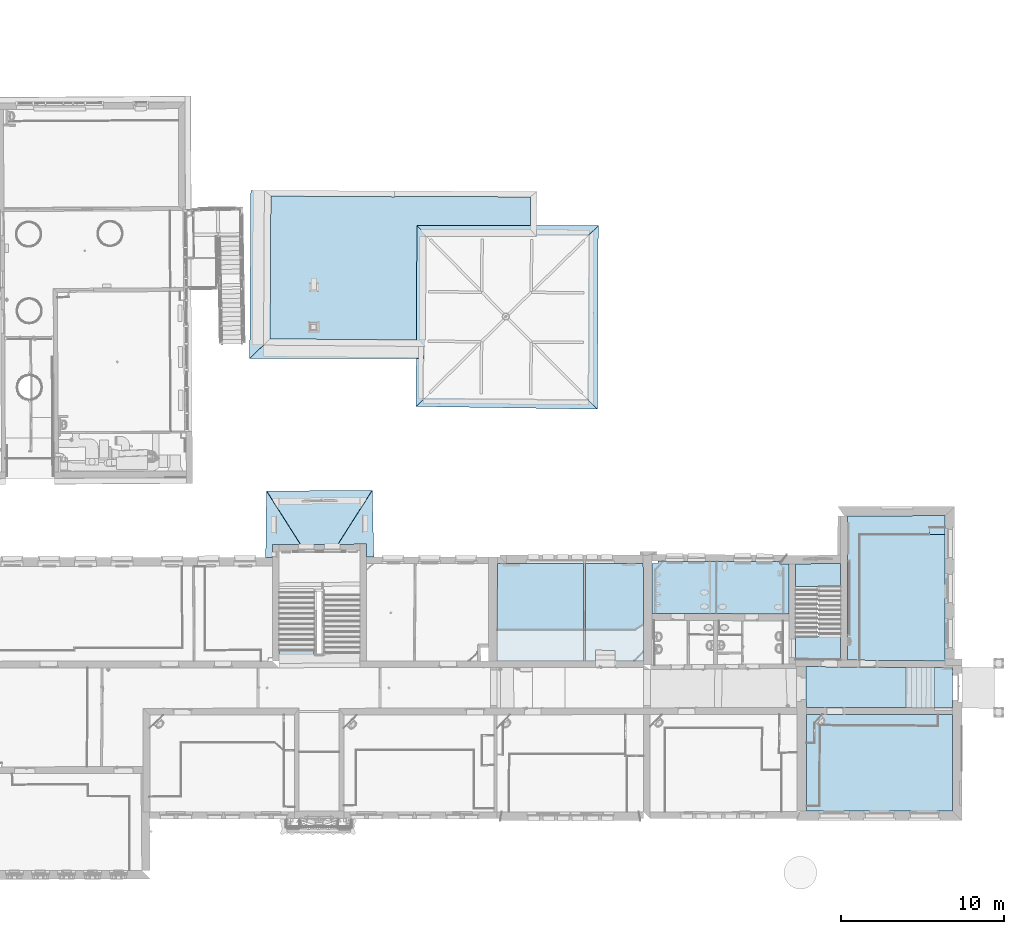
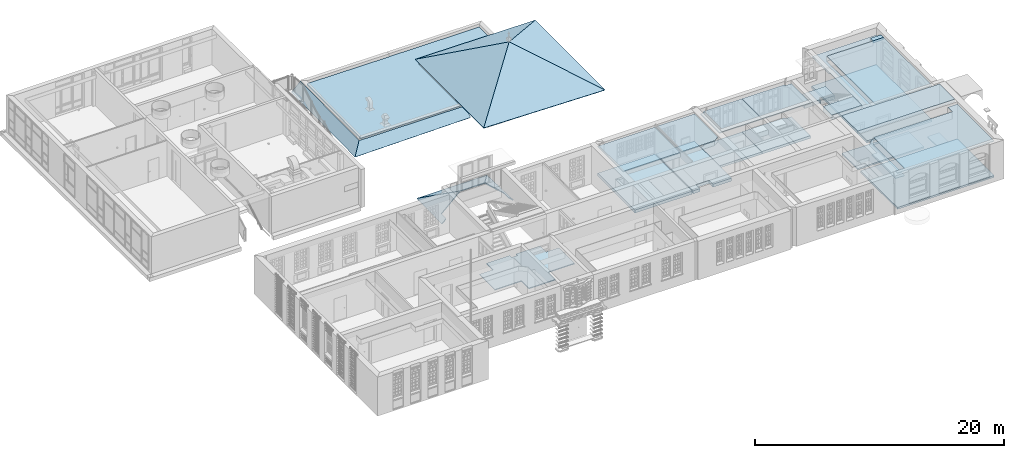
# One storey, part 13 of 158: 31 slabs.
"""IFC2X3 building model written with IfcOpenShell, lengths in metres."""

from ifc_helpers import new_model, entity, si_unit, converted_unit, derived_unit, money_unit, direction, frame, origin_with_axes, place, context, subcontext, project, spatial, polyline, outline, extrude, boolean, faceted_brep, material, layer, layer_set, layer_usage, type_object, element, save


model = new_model("IFC2X3")

# Units and contexts
model_context = context("Model", 3, precision=1e-05, world=origin_with_axes(), true_north=direction((0.0, 1.0)))
body_context = subcontext(model_context, "Body", "Model", "MODEL_VIEW")
ifc_project = project(units=[si_unit("LENGTHUNIT", "METRE"), si_unit("AREAUNIT", "SQUARE_METRE"), si_unit("VOLUMEUNIT", "CUBIC_METRE"), converted_unit("PLANEANGLEUNIT", "DEGREE", entity("IfcPlaneAngleMeasure", 0.0174532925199), si_unit("PLANEANGLEUNIT", "RADIAN"), dimensions=[0, 0, 0, 0, 0, 0, 0]), money_unit("EUR"), converted_unit("TIMEUNIT", "Year", entity("IfcTimeMeasure", 31556926.0), si_unit("TIMEUNIT", "SECOND"), dimensions=[0, 0, 1, 0, 0, 0, 0]), si_unit("MASSUNIT", "GRAM", prefix="KILO"), si_unit("THERMODYNAMICTEMPERATUREUNIT", "DEGREE_CELSIUS"), si_unit("LUMINOUSINTENSITYUNIT", "LUMEN"), si_unit("ENERGYUNIT", "JOULE", prefix="MEGA"), derived_unit("THERMALCONDUCTANCEUNIT", [(si_unit("POWERUNIT", "WATT"), 1), (si_unit("LENGTHUNIT", "METRE"), -1), (si_unit("THERMODYNAMICTEMPERATUREUNIT", "KELVIN"), -1)]), derived_unit("SPECIFICHEATCAPACITYUNIT", [(si_unit("ENERGYUNIT", "JOULE"), 1), (si_unit("MASSUNIT", "GRAM", prefix="KILO"), -1), (si_unit("THERMODYNAMICTEMPERATUREUNIT", "KELVIN"), -1)]), derived_unit("MASSDENSITYUNIT", [(si_unit("MASSUNIT", "GRAM", prefix="KILO"), 1), (si_unit("VOLUMEUNIT", "CUBIC_METRE"), -1)])], contexts=[model_context])

# Site, building, storey
site_placement = place(None, origin_with_axes())
site = spatial("IfcSite", under=ifc_project, at=site_placement, Name="Gelände", CompositionType="ELEMENT")
building_placement = place(site_placement, origin_with_axes())
building = spatial("IfcBuilding", under=site, at=building_placement, Name="Gebäude", CompositionType="ELEMENT")
storey_placement = place(building_placement, origin_with_axes())
storey = spatial("IfcBuildingStorey", under=building, at=storey_placement, Name="ERDGESCHOSS", CompositionType="ELEMENT", Elevation=0.0)

# Slabs
ifc_material_1 = material(Name="29_Dach, Dachziegel rot")
slab_type_1 = type_object("IfcSlabType", Name="29_Dach, Dachziegel rot 80", PredefinedType="ROOF")
slab_1_placement = place(storey_placement, frame((-8.24355247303, 27.2967141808, 2.69399957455), z_axis=(0.0, 0.0, 1.0), x_axis=(0.00970070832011, 0.999952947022, 0.0)))
element("IfcSlab", 1, at=slab_1_placement, inside=storey, type_object=slab_type_1, material=ifc_material_1, Name="Dach-001", PredefinedType="ROOF", context=body_context, shape_type="Brep", body=[
    faceted_brep([(2.81051772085, 2.40048217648, -2.1352390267), (-1.26759718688, 2.4098255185, -2.14397628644), (-1.26300971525, 1.99640930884, -1.75737748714), (-0.487870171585, 2.00400203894, -1.76447769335), (-0.461976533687, 0.280474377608, -0.152751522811), (2.75320523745, 2.34597187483, -2.1937937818), (-1.2669908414, 2.35518251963, -2.20240695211), (-1.26300971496, 1.99640930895, -1.86690657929), (-0.487870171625, 2.00400203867, -1.87400678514), (-0.461717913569, 0.263260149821, -0.246183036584)], [[[0, 1, 2, 3, 4]], [[1, 0, 5, 6]], [[2, 1, 6, 7]], [[3, 2, 7, 8]], [[4, 3, 8, 9]], [[0, 4, 9, 5]], [[6, 5, 9, 8, 7]]]),
])
slab_2_placement = place(storey_placement, frame((-6.58477294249, 29.2767822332, 2.70662234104), z_axis=(0.0, 0.0, 1.0), x_axis=(0.0296289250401, -0.999560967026, 0.0)))
element("IfcSlab", 2, at=slab_2_placement, inside=storey, type_object=slab_type_1, material=ifc_material_1, Name="Dach-002", PredefinedType="ROOF", context=body_context, shape_type="Brep", body=[
    faceted_brep([(3.28961745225, 2.4712463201, -2.13129942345), (-0.81026614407, 2.49513987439, -2.152949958), (2.43683209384, 0.295698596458, -0.159982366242), (2.47949560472, 2.05021337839, -1.74979116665), (3.27704743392, 2.02622043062, -1.72805056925), (3.28810042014, 2.41753769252, -2.19059009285), (-0.754712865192, 2.44109864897, -2.21193925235), (2.43643948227, 0.279552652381, -0.253309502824), (2.47949560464, 2.05021337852, -1.85774853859), (3.27704743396, 2.02622043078, -1.83600794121)], [[[0, 1, 2, 3, 4]], [[1, 0, 5, 6]], [[2, 1, 6, 7]], [[3, 2, 7, 8]], [[4, 3, 8, 9]], [[0, 4, 9, 5]], [[6, 5, 9, 8, 7]]]),
])
slab_3_placement = place(storey_placement, frame((-4.87090665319, 26.4290862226, 2.70662234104), z_axis=(0.0, 0.0, 1.0), x_axis=(-0.999999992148, -0.000125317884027, 0.0)))
element("IfcSlab", 3, at=slab_3_placement, inside=storey, type_object=slab_type_1, material=ifc_material_1, Name="Dach-002", PredefinedType="ROOF", context=body_context, shape_type="Brep", body=[
    faceted_brep([(-0.756638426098, -3.73143994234, -2.15294995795), (5.74528714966, -3.70201982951, -2.13523904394), (3.6575372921, -0.40885232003, -0.152751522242), (1.34604406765, -0.420863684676, -0.159982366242), (-0.714213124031, -3.68998755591, -2.2213732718), (5.70198110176, -3.66095536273, -2.2038958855), (3.640321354, -0.408941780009, -0.246183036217), (1.36219456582, -0.420779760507, -0.253309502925)], [[[0, 1, 2, 3]], [[1, 0, 4, 5]], [[2, 1, 5, 6]], [[3, 2, 6, 7]], [[0, 3, 7, 4]], [[5, 4, 7, 6]]]),
])
slab_4_placement = place(storey_placement, frame((-11.5312044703, 41.4546536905, 0.0291833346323), z_axis=(0.0, 0.0, 1.0), x_axis=(-0.00061308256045, -0.999999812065, 0.0)))
element("IfcSlab", 4, at=slab_4_placement, inside=storey, type_object=slab_type_1, material=ifc_material_1, Name="Dach-003", PredefinedType="ROOF", context=body_context, shape_type="Brep", body=[
    faceted_brep([(3.19237896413, -0.116746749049, -0.00149994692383), (2.35986902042, 0.735980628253, 0.821579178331), (-7.14996558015, 0.783354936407, 0.867306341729), (-7.14945299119, -0.0527296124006, 0.0602913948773), (3.13716853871, -0.0608459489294, -0.0587304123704), (2.35923093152, 0.735983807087, 0.71039458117), (-7.14993151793, 0.783354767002, 0.756118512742), (-7.14945299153, 0.00282942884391, 0.00273105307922)], [[[0, 1, 2, 3]], [[1, 0, 4, 5]], [[2, 1, 5, 6]], [[3, 2, 6, 7]], [[0, 3, 7, 4]], [[5, 4, 7, 6]]]),
])
slab_5_placement = place(storey_placement, frame((-11.1899151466, 38.3717914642, 0.0285634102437), z_axis=(0.0, 0.0, 1.0), x_axis=(0.999915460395, -0.0130027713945, 0.0)))
element("IfcSlab", 5, at=slab_5_placement, inside=storey, type_object=slab_type_1, material=ifc_material_1, Name="Dach-004", PredefinedType="ROOF", context=body_context, shape_type="Brep", body=[
    faceted_brep([(10.2478805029, 0.0227545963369, 0.134024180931), (10.2174267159, 0.769298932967, 0.862917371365), (0.378689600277, 0.722464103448, 0.817189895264), (-0.459598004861, -0.116484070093, -0.00192235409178), (10.2478805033, 0.078642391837, 0.0767829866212), (10.2197061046, 0.769309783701, 0.751120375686), (0.378044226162, 0.722461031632, 0.705379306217), (-0.403669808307, -0.0598689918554, -0.0584534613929)], [[[0, 1, 2, 3]], [[1, 0, 4, 5]], [[2, 1, 5, 6]], [[3, 2, 6, 7]], [[0, 3, 7, 4]], [[5, 4, 7, 6]]]),
])
slab_6_placement = place(storey_placement, frame((-1.31989253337, 36.2583011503, 1.03819345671), z_axis=(0.0, 0.0, 1.0), x_axis=(0.00849003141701, 0.999963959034, 0.0)))
element("IfcSlab", 6, at=slab_6_placement, inside=storey, type_object=slab_type_1, material=ifc_material_1, Name="Dach-004", PredefinedType="ROOF", context=body_context, shape_type="Brep", body=[
    faceted_brep([(-0.935858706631, 0.0948839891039, 0.0375724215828), (4.61804661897, -5.39443084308, 3.20906310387), (10.1799424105, 0.135584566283, 0.0140573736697), (-0.895813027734, 0.0550094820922, -0.0317821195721), (4.61803061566, -5.39470957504, 3.11683182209), (10.1398070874, 0.0954164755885, -0.0551275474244)], [[[0, 1, 2]], [[1, 0, 3, 4]], [[2, 1, 4, 5]], [[0, 2, 5, 3]], [[4, 3, 5]]]),
])
slab_7_placement = place(storey_placement, frame((8.25994698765, 46.2290372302, 1.03834517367), z_axis=(0.0, 0.0, 1.0), x_axis=(-0.999970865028, 0.00763341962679, 0.0)))
element("IfcSlab", 7, at=slab_7_placement, inside=storey, type_object=slab_type_1, material=ifc_material_1, Name="Dach-005", PredefinedType="ROOF", context=body_context, shape_type="Brep", body=[
    faceted_brep([(-1.51611044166, -0.21042194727, -0.0285325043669), (9.63031357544, -0.136482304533, 0.0139056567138), (4.09949414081, 5.43576099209, 3.21213261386), (-1.47611552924, -0.170333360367, -0.0977639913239), (9.59078401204, -0.0969212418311, -0.055628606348), (4.09942436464, 5.43556672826, 3.11978051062)], [[[0, 1, 2]], [[1, 0, 3, 4]], [[2, 1, 4, 5]], [[0, 2, 5, 3]], [[4, 3, 5]]]),
])
slab_8_placement = place(storey_placement, frame((9.56123597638, 45.1832943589, 1.03827410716), z_axis=(0.0, 0.0, 1.0), x_axis=(-0.00531098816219, -0.999985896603, 0.0)))
element("IfcSlab", 8, at=slab_8_placement, inside=storey, type_object=slab_type_1, material=ifc_material_1, Name="Dach-005", PredefinedType="ROOF", context=body_context, shape_type="Brep", body=[
    faceted_brep([(10.0267022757, 0.215618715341, -0.0318284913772), (-1.24544451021, 0.209497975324, -0.0283045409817), (4.38178988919, -5.41331803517, 3.20897145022), (9.98680843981, 0.175680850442, -0.10114636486), (-1.20564239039, 0.169603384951, -0.0976473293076), (4.38180652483, -5.41345837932, 3.11674058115)], [[[0, 1, 2]], [[1, 0, 3, 4]], [[2, 1, 4, 5]], [[0, 2, 5, 3]], [[4, 3, 5]]]),
])
slab_9_placement = place(storey_placement, frame((9.18721635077, 35.3743131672, 1.03836435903), z_axis=(0.0, 0.0, 1.0), x_axis=(-0.999991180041, 0.00419998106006, 0.0)))
element("IfcSlab", 9, at=slab_9_placement, inside=storey, type_object=slab_type_1, material=ifc_material_1, Name="Dach-005", PredefinedType="ROOF", context=body_context, shape_type="Brep", body=[
    faceted_brep([(-0.537268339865, 0.21644077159, -0.0319019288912), (5.09095408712, -5.44031093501, 3.21210313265), (10.6096270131, 0.0955925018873, 0.0374015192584), (-0.497080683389, 0.176206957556, -0.101050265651), (5.09088478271, -5.44008372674, 3.11975141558), (10.5700843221, 0.0562230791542, -0.0322425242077)], [[[0, 1, 2]], [[1, 0, 3, 4]], [[2, 1, 4, 5]], [[0, 2, 5, 3]], [[4, 3, 5]]]),
])
ifc_material_2 = material(Name="01_ALLGEMEIN - BAUTEIL")
ifc_layer_1 = layer(ifc_material_2, 0.05, ventilated="UNKNOWN")
ifc_layer_set_1 = layer_set([ifc_layer_1], Name="01_ALLGEMEIN - BAUTEIL 0.05")
ifc_layer_usage_1 = layer_usage(ifc_layer_set_1, "AXIS3", "NEGATIVE", 0.05)
slab_type_2 = type_object("IfcSlabType", Name="01_ALLGEMEIN - BAUTEIL 50", PredefinedType="NOTDEFINED")
slab_10_placement = place(storey_placement, frame((25.8306078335, 27.4395429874, 3.31), z_axis=(0.0, 0.0, 1.0), x_axis=(1.0, 0.0, 0.0)))
element("IfcSlab", 10, at=slab_10_placement, inside=storey, type_object=slab_type_2, material=ifc_layer_usage_1, Name="Belag-004", PredefinedType="NOTDEFINED", context=body_context, shape_type="SweptSolid", body=[
    extrude(outline(polyline([(0.0, 0.0), (0.0202048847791, -7.71009367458), (5.26653042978, -7.75423181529), (5.26391741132, 0.000631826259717), (0.0, 0.0)])), origin_with_axes(), (0.0, 0.0, 1.0), 0.05),
])
ifc_layer_usage_2 = layer_usage(ifc_layer_set_1, "AXIS3", "NEGATIVE", 0.05)
slab_11_placement = place(storey_placement, frame((25.0820873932, 21.2690285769, 2.83), z_axis=(0.0, 0.0, 1.0), x_axis=(1.0, 0.0, 0.0)))
element("IfcSlab", 11, at=slab_11_placement, inside=storey, type_object=slab_type_2, material=ifc_layer_usage_2, Name="Belag-004", PredefinedType="NOTDEFINED", context=body_context, shape_type="SweptSolid", body=[
    extrude(outline(polyline([(0.0, 0.0), (-0.000226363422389, -1.53310998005), (0.768725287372, -1.53957926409), (0.748520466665, 6.17051435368), (5.04291294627, 6.1710299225), (5.05296104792, 6.60018123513), (6.01229439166, 6.59693567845), (6.01204434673, 7.33884133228), (0.00108260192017, 7.33439648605), (0.000674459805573, 4.56953609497), (0.131250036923, 4.56953609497), (0.154868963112, -2.27554112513e-05), (0.0, 0.0)])), origin_with_axes(), (0.0, 0.0, 1.0), 0.05),
])
ifc_layer_usage_3 = layer_usage(ifc_layer_set_1, "AXIS3", "NEGATIVE", 0.05)
slab_12_placement = place(storey_placement, frame((23.4031106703, 15.7215350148, 3.31), z_axis=(0.0, 0.0, 1.0), x_axis=(1.0, 0.0, 0.0)))
element("IfcSlab", 12, at=slab_12_placement, inside=storey, type_object=slab_type_2, material=ifc_layer_usage_3, Name="Belag-004", PredefinedType="NOTDEFINED", context=body_context, shape_type="SweptSolid", body=[
    extrude(outline(polyline([(0.0, 0.0), (-0.00785637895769, -4.97175776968), (-0.827713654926, -4.95484402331), (-0.826745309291, -5.26244488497), (8.13051352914, -5.26003454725), (8.1350297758, 0.661870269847), (7.25563696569, 0.663445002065), (7.25563696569, -0.042902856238), (0.0, 0.0)])), origin_with_axes(), (0.0, 0.0, 1.0), 0.05),
])
ifc_layer_usage_4 = layer_usage(ifc_layer_set_1, "AXIS3", "NEGATIVE", 0.05)
slab_13_placement = place(storey_placement, frame((22.5632278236, 14.6323085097, 2.59), z_axis=(0.0, 0.0, 1.0), x_axis=(1.0, 0.0, 0.0)))
element("IfcSlab", 13, at=slab_13_placement, inside=storey, type_object=slab_type_2, material=ifc_layer_usage_4, Name="Belag-004", PredefinedType="NOTDEFINED", context=body_context, shape_type="SweptSolid", body=[
    extrude(outline(polyline([(0.0, 0.0), (0.0121691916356, -3.86561746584), (0.832026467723, -3.88253126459), (0.839882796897, 1.08922649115), (8.09551981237, 1.04632369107), (8.09551981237, 1.75267145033), (1.01114910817, 1.76535755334), (0.516779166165, 1.24591529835), (0.503125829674, -0.00927979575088), (0.0, 0.0)])), origin_with_axes(), (0.0, 0.0, 1.0), 0.05),
])
ifc_material_3 = material(Name="05_ALLGEMEIN - TRAGENDE BAUTEILE")
ifc_layer_2 = layer(ifc_material_3, 0.09, ventilated="UNKNOWN")
ifc_layer_set_2 = layer_set([ifc_layer_2], Name="05_ALLGEMEIN - TRAGENDE BAUTEILE 0.09")
ifc_layer_usage_5 = layer_usage(ifc_layer_set_2, "AXIS3", "NEGATIVE", 0.09)
slab_type_3 = type_object("IfcSlabType", Name="05_ALLGEMEIN - TRAGENDE BAUTEILE 90", PredefinedType="NOTDEFINED")
slab_14_placement = place(storey_placement, frame((-11.0684491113, 19.2604025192, -0.12), z_axis=(0.0, 0.0, 1.0), x_axis=(1.0, 0.0, 0.0)))
element("IfcSlab", 14, at=slab_14_placement, inside=storey, type_object=slab_type_3, material=ifc_layer_usage_5, Name="Belag-003", PredefinedType="NOTDEFINED", context=body_context, shape_type="CSG", body=[
    boolean("DIFFERENCE", boolean("DIFFERENCE", extrude(outline(polyline([(0.0, 0.0), (-0.0124795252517, -2.47916482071), (2.4524799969, -2.47552520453), (2.45356210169, -3.82392998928), (4.92056685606, -3.82282544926), (4.92032999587, -2.48592841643), (7.35321048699, -2.48199454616), (7.36991717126, 0.0160701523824), (6.19311073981, 0.0157275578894), (6.19354518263, 1.00105112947), (3.94174977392, 1.00502829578), (3.94165374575, 0.748892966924), (3.38612235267, 0.748840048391), (3.38585774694, 1.05956681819), (1.226868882, 1.05936358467), (1.2269685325, 0.000757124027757), (0.0, 0.0)])), frame((0.0, 0.0, -0.09), z_axis=(0.0, 0.0, 1.0), x_axis=(1.0, 0.0, 0.0)), (0.0, 0.0, 1.0), 0.09), faceted_brep([(3.94168810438, 0.840537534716, 0.0), (3.94171211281, 0.840537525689, 0.0), (3.94177395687, 1.00502825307, 0.0), (3.94174977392, 1.00502829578, 0.0), (3.94168810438, 0.840537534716, -0.09), (3.94171211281, 0.840537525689, -0.09), (3.94177395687, 1.00502825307, -0.09), (3.94174977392, 1.00502829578, -0.09)], [[[0, 1, 2, 3]], [[1, 0, 4, 5]], [[6, 2, 1, 5]], [[2, 6, 7, 3]], [[4, 0, 3, 7]], [[5, 4, 7, 6]]])), faceted_brep([(4.92054028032, -3.67282542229, -0.09), (4.92054028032, -3.67282542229, 0.0), (4.92056685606, -3.82282544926, 0.0), (4.92056685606, -3.82282544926, -0.09), (2.45344242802, -3.67480528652, 0.0), (2.45344242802, -3.67480528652, -0.09), (2.45356210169, -3.82392998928, 0.0), (2.45356210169, -3.82392998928, -0.09)], [[[0, 1, 2, 3]], [[4, 1, 0, 5]], [[1, 4, 6, 2]], [[6, 7, 3, 2]], [[5, 0, 3, 7]], [[4, 5, 7, 6]]])),
])
ifc_layer_3 = layer(ifc_material_3, 0.2, ventilated="UNKNOWN")
ifc_layer_set_3 = layer_set([ifc_layer_3], Name="05_ALLGEMEIN - TRAGENDE BAUTEILE 0.2")
ifc_layer_usage_6 = layer_usage(ifc_layer_set_3, "AXIS3", "NEGATIVE", 0.200000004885)
slab_type_4 = type_object("IfcSlabType", Name="05_ALLGEMEIN - TRAGENDE BAUTEILE 200", PredefinedType="NOTDEFINED")
slab_15_placement = place(storey_placement, frame((25.0818610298, 19.7359186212, -0.01), z_axis=(0.0, 0.0, 1.0), x_axis=(1.0, 0.0, 0.0)))
element("IfcSlab", 15, at=slab_15_placement, inside=storey, type_object=slab_type_4, material=ifc_layer_usage_6, Name="Belag-003", PredefinedType="NOTDEFINED", context=body_context, shape_type="SweptSolid", body=[
    extrude(outline(polyline([(0.0, 0.0), (6.01527723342, -0.05060744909), (6.01227075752, 8.87195128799), (0.00130896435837, 8.86750649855), (0.0, 0.0)])), frame((0.0, 0.0, -0.200000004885), z_axis=(0.0, 0.0, 1.0), x_axis=(1.0, 0.0, 0.0)), (0.0, 0.0, 1.0), 0.200000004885),
])
ifc_layer_4 = layer(ifc_material_3, 0.27, ventilated="UNKNOWN")
ifc_layer_set_4 = layer_set([ifc_layer_4], Name="05_ALLGEMEIN - TRAGENDE BAUTEILE 0.27")
ifc_layer_usage_7 = layer_usage(ifc_layer_set_4, "AXIS3", "NEGATIVE", 0.27)
slab_type_5 = type_object("IfcSlabType", Name="05_ALLGEMEIN - TRAGENDE BAUTEILE 270", PredefinedType="NOTDEFINED")
slab_16_placement = place(storey_placement, frame((22.5484164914, 19.3372180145, 3.33), z_axis=(0.0, 0.0, 1.0), x_axis=(1.0, 0.0, 0.0)))
element("IfcSlab", 16, at=slab_16_placement, inside=storey, type_object=slab_type_5, material=ifc_layer_usage_7, Name="Belag-004", PredefinedType="NOTDEFINED", context=body_context, shape_type="SweptSolid", body=[
    extrude(outline(polyline([(0.0, 0.0), (0.00792595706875, -2.51772831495), (8.99004426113, -2.53381263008), (8.99191893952, -0.0756503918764), (0.0, 0.0)])), origin_with_axes(), (0.0, 0.0, 1.0), 0.27),
])
ifc_layer_5 = layer(ifc_material_3, 0.18, ventilated="UNKNOWN")
ifc_layer_set_5 = layer_set([ifc_layer_5], Name="05_ALLGEMEIN - TRAGENDE BAUTEILE 0.18")
ifc_layer_usage_8 = layer_usage(ifc_layer_set_5, "AXIS3", "NEGATIVE", 0.18)
slab_type_6 = type_object("IfcSlabType", Name="05_ALLGEMEIN - TRAGENDE BAUTEILE 180", PredefinedType="NOTDEFINED")
slab_17_placement = place(storey_placement, frame((22.5576646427, 16.3994866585, -0.03), z_axis=(0.0, 0.0, 1.0), x_axis=(1.0, 0.0, 0.0)))
element("IfcSlab", 17, at=slab_17_placement, inside=storey, type_object=slab_type_6, material=ifc_layer_usage_8, Name="Belag-003", PredefinedType="NOTDEFINED", context=body_context, shape_type="SweptSolid", body=[
    extrude(outline(polyline([(0.0, 0.0), (0.018700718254, -5.94039652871), (8.97595955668, -5.93798619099), (8.98047580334, -0.0160813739), (0.0, 0.0)])), frame((0.0, 0.0, -0.18), z_axis=(0.0, 0.0, 1.0), x_axis=(1.0, 0.0, 0.0)), (0.0, 0.0, 1.0), 0.18),
])
ifc_layer_6 = layer(ifc_material_3, 0.5, ventilated="UNKNOWN")
ifc_layer_set_6 = layer_set([ifc_layer_6], Name="05_ALLGEMEIN - TRAGENDE BAUTEILE 0.5")
ifc_layer_usage_9 = layer_usage(ifc_layer_set_6, "AXIS3", "NEGATIVE", 0.5)
slab_type_7 = type_object("IfcSlabType", Name="05_ALLGEMEIN - TRAGENDE BAUTEILE 500", PredefinedType="NOTDEFINED")
slab_18_placement = place(storey_placement, frame((21.8942864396, 19.8107117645, 3.1), z_axis=(0.0, 0.0, 1.0), x_axis=(1.0, 0.0, 0.0)))
element("IfcSlab", 18, at=slab_18_placement, inside=storey, type_object=slab_type_7, material=ifc_layer_usage_9, Name="Belag-004", PredefinedType="NOTDEFINED", context=body_context, shape_type="CSG", body=[
    boolean("DIFFERENCE", extrude(outline(polyline([(0.0, 0.0), (2.77758192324, -0.0250856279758), (2.7777923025, 1.40011700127), (1.44800921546, 1.40176196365), (0.00183033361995, 1.40373658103), (0.0, 0.0)])), origin_with_axes(), (0.0, 0.0, 1.0), 0.5), faceted_brep([(0.0016407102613, 1.25830886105, 0.0), (2.7777713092, 1.25789906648, 0.0), (2.77758192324, -0.0250856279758, 0.0), (0.0, 0.0, 0.0), (2.7777468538, 1.09222734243, 0.0415865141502), (0.0014246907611, 1.09263716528, 0.0415865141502), (2.77759665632, 0.0747228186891, 0.0415865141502), (2.77758192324, -0.0250856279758, 0.0165328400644), (2.77772202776, 0.924044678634, 0.071438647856), (2.7776969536, 0.754181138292, 0.0894090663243), (2.77767175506, 0.583475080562, 0.0954090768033), (2.77764655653, 0.412769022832, 0.0894090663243), (2.77762148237, 0.24290548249, 0.071438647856), (0.0, 0.0, 0.0227268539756), (9.79657576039e-05, 0.0751328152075, 0.0415865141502), (0.000317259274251, 0.243315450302, 0.0714386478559), (0.000538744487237, 0.413178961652, 0.0894090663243), (0.000761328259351, 0.583884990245, 0.0954090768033), (0.000983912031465, 0.754591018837, 0.0894090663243), (0.00120539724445, 0.924454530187, 0.0714386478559)], [[[0, 1, 2, 3]], [[4, 1, 0, 5]], [[6, 7, 2, 1, 4, 8, 9, 10, 11, 12]], [[7, 13, 3, 2]], [[5, 0, 3, 13, 14, 15, 16, 17, 18, 19]], [[8, 4, 5, 19]], [[7, 6, 14, 13]], [[9, 8, 19, 18]], [[10, 9, 18, 17]], [[11, 10, 17, 16]], [[12, 11, 16, 15]], [[6, 12, 15, 14]]])),
])
ifc_layer_7 = layer(ifc_material_3, 0.15, ventilated="UNKNOWN")
ifc_layer_set_7 = layer_set([ifc_layer_7], Name="05_ALLGEMEIN - TRAGENDE BAUTEILE 0.15")
ifc_layer_usage_10 = layer_usage(ifc_layer_set_7, "AXIS3", "NEGATIVE", 0.15)
slab_type_8 = type_object("IfcSlabType", Name="05_ALLGEMEIN - TRAGENDE BAUTEILE 150", PredefinedType="ROOF")
slab_19_placement = place(storey_placement, frame((-10.3457854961, 48.1884604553, 0.566725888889), z_axis=(0.0, 0.0, 1.0), x_axis=(-0.00559462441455, -0.999984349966, 0.0)))
element("IfcSlab", 19, at=slab_19_placement, inside=storey, type_object=slab_type_8, material=ifc_layer_usage_10, Name="Dach-013", PredefinedType="ROOF", context=body_context, shape_type="SweptSolid", body=[
    extrude(outline(polyline([(-0.0633884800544, 0.0), (8.71267078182, 0.0), (8.73693278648, 9.16142567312), (1.94838252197, 9.16316962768), (1.90748572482, 15.9544022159), (-0.104419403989, 15.9515495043), (-0.0811650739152, 7.59389326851), (-0.0622997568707, 7.59389056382), (-0.0633884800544, 0.0)])), origin_with_axes(), (0.0, 0.0, 1.0), 0.15),
])
ifc_layer_8 = layer(ifc_material_3, 0.250000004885, ventilated="UNKNOWN")
ifc_layer_set_8 = layer_set([ifc_layer_8], Name="05_ALLGEMEIN - TRAGENDE BAUTEILE 0.25")
ifc_layer_usage_11 = layer_usage(ifc_layer_set_8, "AXIS3", "NEGATIVE", 0.250000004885)
slab_type_9 = type_object("IfcSlabType", Name="05_ALLGEMEIN - TRAGENDE BAUTEILE 250", PredefinedType="NOTDEFINED")
slab_20_placement = place(storey_placement, frame((17.002223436, 25.8019819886, 0.04), z_axis=(0.0, 0.0, 1.0), x_axis=(1.0, 0.0, 0.0)))
element("IfcSlab", 20, at=slab_20_placement, inside=storey, type_object=slab_type_9, material=ifc_layer_usage_11, Name="Belag-003", PredefinedType="NOTDEFINED", context=body_context, shape_type="SweptSolid", body=[
    extrude(outline(polyline([(0.0, 0.0), (-0.00275120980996, -3.21387995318), (4.48566075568, -3.23178125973), (4.48967564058, -0.152648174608), (3.95448427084, -0.155556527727), (3.95448427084, -0.0155359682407), (0.0, 0.0)])), frame((0.0, 0.0, -0.250000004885), z_axis=(0.0, 0.0, 1.0), x_axis=(1.0, 0.0, 0.0)), (0.0, 0.0, 1.0), 0.250000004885),
])
ifc_layer_9 = layer(ifc_material_3, 0.14, ventilated="UNKNOWN")
ifc_layer_set_9 = layer_set([ifc_layer_9], Name="05_ALLGEMEIN - TRAGENDE BAUTEILE 0.14")
ifc_layer_usage_12 = layer_usage(ifc_layer_set_9, "AXIS3", "NEGATIVE", 0.140000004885)
slab_type_10 = type_object("IfcSlabType", Name="05_ALLGEMEIN - TRAGENDE BAUTEILE 140", PredefinedType="NOTDEFINED")
slab_21_placement = place(storey_placement, frame((28.6942466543, 19.2855122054, -0.07), z_axis=(0.0, 0.0, 1.0), x_axis=(1.0, 0.0, 0.0)))
element("IfcSlab", 21, at=slab_21_placement, inside=storey, type_object=slab_type_10, material=ifc_layer_usage_12, Name="Belag-003", PredefinedType="NOTDEFINED", context=body_context, shape_type="SweptSolid", body=[
    extrude(outline(polyline([(0.0, 0.0), (-6.14583016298, 0.0517057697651), (-6.13790418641, -2.46602251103), (-0.00443558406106, -2.47700573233), (0.0, 0.0)])), frame((0.0, 0.0, -0.140000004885), z_axis=(0.0, 0.0, 1.0), x_axis=(1.0, 0.0, 0.0)), (0.0, 0.0, 1.0), 0.140000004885),
])
ifc_layer_10 = layer(ifc_material_3, 0.1, ventilated="UNKNOWN")
ifc_layer_set_10 = layer_set([ifc_layer_10], Name="05_ALLGEMEIN - TRAGENDE BAUTEILE 0.1")
ifc_layer_usage_13 = layer_usage(ifc_layer_set_10, "AXIS3", "NEGATIVE", 0.1)
slab_type_11 = type_object("IfcSlabType", Name="05_ALLGEMEIN - TRAGENDE BAUTEILE 100", PredefinedType="NOTDEFINED")
slab_22_placement = place(storey_placement, frame((31.540335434, 19.261567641, -1.16), z_axis=(0.0, 0.0, 1.0), x_axis=(1.0, 0.0, 0.0)))
element("IfcSlab", 22, at=slab_22_placement, inside=storey, type_object=slab_type_11, material=ifc_layer_usage_13, Name="Belag-003", PredefinedType="NOTDEFINED", context=body_context, shape_type="SweptSolid", body=[
    extrude(outline(polyline([(0.0, 0.0), (-1.11372603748, 0.00936992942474), (-1.1062535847, -2.45618464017), (-0.00187467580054, -2.45816225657), (0.0, 0.0)])), frame((0.0, 0.0, -0.1), z_axis=(0.0, 0.0, 1.0), x_axis=(1.0, 0.0, 0.0)), (0.0, 0.0, 1.0), 0.1),
])
ifc_layer_usage_14 = layer_usage(ifc_layer_set_10, "AXIS3", "NEGATIVE", 0.1)
slab_23_placement = place(storey_placement, frame((8.97528229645, 21.6021982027, 3.3325), z_axis=(0.0, 0.0, 1.0), x_axis=(1.0, 0.0, 0.0)))
element("IfcSlab", 23, at=slab_23_placement, inside=storey, type_object=slab_type_11, material=ifc_layer_usage_14, Name="Belag-004", PredefinedType="NOTDEFINED", context=body_context, shape_type="SweptSolid", body=[
    extrude(outline(polyline([(0.0, 0.0), (3.0524201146, 0.00509612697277), (3.56442590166, 0.320480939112), (3.56355607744, 4.0705505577), (0.00072085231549, 4.06461107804), (0.0, 0.0)])), origin_with_axes(), (0.0, 0.0, 1.0), 0.1),
])
ifc_layer_usage_15 = layer_usage(ifc_layer_set_10, "AXIS3", "NEGATIVE", 0.1)
slab_24_placement = place(storey_placement, frame((13.089550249, 22.603696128, 3.17), z_axis=(0.0, 0.0, 1.0), x_axis=(1.0, 0.0, 0.0)))
element("IfcSlab", 24, at=slab_24_placement, inside=storey, type_object=slab_type_11, material=ifc_layer_usage_15, Name="Belag-004", PredefinedType="NOTDEFINED", context=body_context, shape_type="SweptSolid", body=[
    extrude(outline(polyline([(0.0, 0.0), (3.90992197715, -0.01559409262), (3.91267318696, 3.19828586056), (0.356001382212, 3.21225894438), (0.356001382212, 3.06817775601), (-0.000711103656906, 3.0657519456), (0.0, 0.0)])), origin_with_axes(), (0.0, 0.0, 1.0), 0.1),
])
ifc_layer_usage_16 = layer_usage(ifc_layer_set_10, "AXIS3", "NEGATIVE", 0.1)
slab_25_placement = place(storey_placement, frame((16.9994722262, 22.5881020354, 3.17), z_axis=(0.0, 0.0, 1.0), x_axis=(1.0, 0.0, 0.0)))
element("IfcSlab", 25, at=slab_25_placement, inside=storey, type_object=slab_type_11, material=ifc_layer_usage_16, Name="Belag-004", PredefinedType="NOTDEFINED", context=body_context, shape_type="SweptSolid", body=[
    extrude(outline(polyline([(0.0, 0.0), (4.48841196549, -0.0179013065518), (4.49242685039, 3.06123177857), (3.95723548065, 3.05832342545), (3.95723548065, 3.19834398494), (0.00275120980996, 3.21387995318), (0.0, 0.0)])), origin_with_axes(), (0.0, 0.0, 1.0), 0.1),
])
ifc_layer_usage_17 = layer_usage(ifc_layer_set_10, "AXIS3", "NEGATIVE", 0.1)
slab_26_placement = place(storey_placement, frame((3.56743035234, 25.6577926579, 3.315), z_axis=(0.0, 0.0, 1.0), x_axis=(1.0, 0.0, 0.0)))
element("IfcSlab", 26, at=slab_26_placement, inside=storey, type_object=slab_type_11, material=ifc_layer_usage_17, Name="Belag-005", PredefinedType="NOTDEFINED", context=body_context, shape_type="SweptSolid", body=[
    extrude(outline(polyline([(0.0, 0.0), (-0.00106289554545, -4.06912738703), (5.307850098, -4.06600595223), (5.30857269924, 0.00884986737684), (0.0, 0.0)])), origin_with_axes(), (0.0, 0.0, 1.0), 0.1),
])
ifc_layer_11 = layer(ifc_material_3, 0.220000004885, ventilated="UNKNOWN")
ifc_layer_set_11 = layer_set([ifc_layer_11], Name="05_ALLGEMEIN - TRAGENDE BAUTEILE 0.22")
ifc_layer_usage_18 = layer_usage(ifc_layer_set_11, "AXIS3", "NEGATIVE", 0.220000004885)
slab_type_12 = type_object("IfcSlabType", Name="05_ALLGEMEIN - TRAGENDE BAUTEILE 220", PredefinedType="NOTDEFINED")
slab_27_placement = place(storey_placement, frame((13.089550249, 22.603696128, 0.01), z_axis=(0.0, 0.0, 1.0), x_axis=(1.0, 0.0, 0.0)))
element("IfcSlab", 27, at=slab_27_placement, inside=storey, type_object=slab_type_12, material=ifc_layer_usage_18, Name="Belag-003", PredefinedType="NOTDEFINED", context=body_context, shape_type="SweptSolid", body=[
    extrude(outline(polyline([(0.0, 0.0), (3.90992197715, -0.01559409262), (3.91267318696, 3.19828586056), (0.356001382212, 3.21225894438), (0.356001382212, 3.06817775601), (-0.000711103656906, 3.0657519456), (0.0, 0.0)])), frame((0.0, 0.0, -0.220000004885), z_axis=(0.0, 0.0, 1.0), x_axis=(1.0, 0.0, 0.0)), (0.0, 0.0, 1.0), 0.220000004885),
])
ifc_layer_12 = layer(ifc_material_3, 0.360708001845, ventilated="UNKNOWN")
ifc_layer_set_12 = layer_set([ifc_layer_12], Name="05_ALLGEMEIN - TRAGENDE BAUTEILE 0.360708")
ifc_layer_usage_19 = layer_usage(ifc_layer_set_12, "AXIS3", "NEGATIVE", 0.360708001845)
slab_type_13 = type_object("IfcSlabType", Name="05_ALLGEMEIN - TRAGENDE BAUTEILE 361", PredefinedType="NOTDEFINED")
slab_28_placement = place(storey_placement, frame((24.6727364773, 25.6666192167, 1.89), z_axis=(0.0, 0.0, 1.0), x_axis=(1.0, 0.0, 0.0)))
element("IfcSlab", 28, at=slab_28_placement, inside=storey, type_object=slab_type_13, material=ifc_layer_usage_19, Name="Belag-003", PredefinedType="NOTDEFINED", context=body_context, shape_type="SweptSolid", body=[
    extrude(outline(polyline([(0.0, 0.0), (-2.77083414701, -0.0150573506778), (-2.77264669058, -1.40515022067), (-1.3301193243, -1.40703113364), (-1.33021902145, -1.48349180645), (-0.000219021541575, -1.48368813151), (0.0, 0.0)])), frame((0.0, 0.0, -0.360708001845), z_axis=(0.0, 0.0, 1.0), x_axis=(1.0, 0.0, 0.0)), (0.0, 0.0, 1.0), 0.360708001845),
])
ifc_layer_13 = layer(ifc_material_2, 0.22, ventilated="UNKNOWN")
ifc_layer_set_13 = layer_set([ifc_layer_13], Name="01_ALLGEMEIN - BAUTEIL 0.22")
ifc_layer_usage_20 = layer_usage(ifc_layer_set_13, "AXIS3", "NEGATIVE", 0.22)
slab_type_14 = type_object("IfcSlabType", Name="01_ALLGEMEIN - BAUTEIL 220", PredefinedType="NOTDEFINED")
slab_29_placement = place(storey_placement, frame((30.1250003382, 27.4400584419, 3.14), z_axis=(0.0, 0.0, 1.0), x_axis=(1.0, 0.0, 0.0)))
element("IfcSlab", 29, at=slab_29_placement, inside=storey, type_object=slab_type_14, material=ifc_layer_usage_20, Name="Belag-004", PredefinedType="NOTDEFINED", context=body_context, shape_type="SweptSolid", body=[
    extrude(outline(polyline([(0.0, 0.0), (0.969524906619, 0.000116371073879), (0.969381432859, 0.425905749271), (0.0100481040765, 0.429151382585), (0.0, 0.0)])), origin_with_axes(), (0.0, 0.0, 1.0), 0.22),
])
ifc_layer_14 = layer(ifc_material_3, 0.295, ventilated="UNKNOWN")
ifc_layer_set_14 = layer_set([ifc_layer_14], Name="05_ALLGEMEIN - TRAGENDE BAUTEILE 0.295")
ifc_layer_usage_21 = layer_usage(ifc_layer_set_14, "AXIS3", "NEGATIVE", 0.295)
slab_type_15 = type_object("IfcSlabType", Name="05_ALLGEMEIN - TRAGENDE BAUTEILE 295", PredefinedType="NOTDEFINED")
slab_30_placement = place(storey_placement, frame((3.56743032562, 25.6577926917, 0.77), z_axis=(0.0, 0.0, 1.0), x_axis=(1.0, 0.0, 0.0)))
element("IfcSlab", 30, at=slab_30_placement, inside=storey, type_object=slab_type_15, material=ifc_layer_usage_21, Name="Belag-007", PredefinedType="NOTDEFINED", context=body_context, shape_type="SweptSolid", body=[
    extrude(outline(polyline([(0.0, 0.0), (-0.00155796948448, -5.96458962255), (5.30751371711, -5.96304403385), (5.30857272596, 0.0088498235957), (0.0, 0.0)])), frame((0.0, 0.0, -0.295), z_axis=(0.0, 0.0, 1.0), x_axis=(1.0, 0.0, 0.0)), (0.0, 0.0, 1.0), 0.295),
])
ifc_layer_usage_22 = layer_usage(ifc_layer_set_14, "AXIS3", "NEGATIVE", 0.295)
slab_31_placement = place(storey_placement, frame((8.97494404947, 19.6947777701, 0.77), z_axis=(0.0, 0.0, 1.0), x_axis=(1.0, 0.0, 0.0)))
element("IfcSlab", 31, at=slab_31_placement, inside=storey, type_object=slab_type_15, material=ifc_layer_usage_22, Name="Belag-008", PredefinedType="NOTDEFINED", context=body_context, shape_type="SweptSolid", body=[
    extrude(outline(polyline([(0.0, 0.0), (0.636967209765, 0.000185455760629), (0.62366075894, 0.64800716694), (1.81884767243, 0.643218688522), (1.82271527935, 0.000530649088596), (3.56528065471, 0.00103789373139), (3.56389431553, 5.97797099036), (0.00105907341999, 5.97203145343), (0.0, 0.0)])), frame((0.0, 0.0, -0.295), z_axis=(0.0, 0.0, 1.0), x_axis=(1.0, 0.0, 0.0)), (0.0, 0.0, 1.0), 0.295),
])

save(model, "model.ifc")
